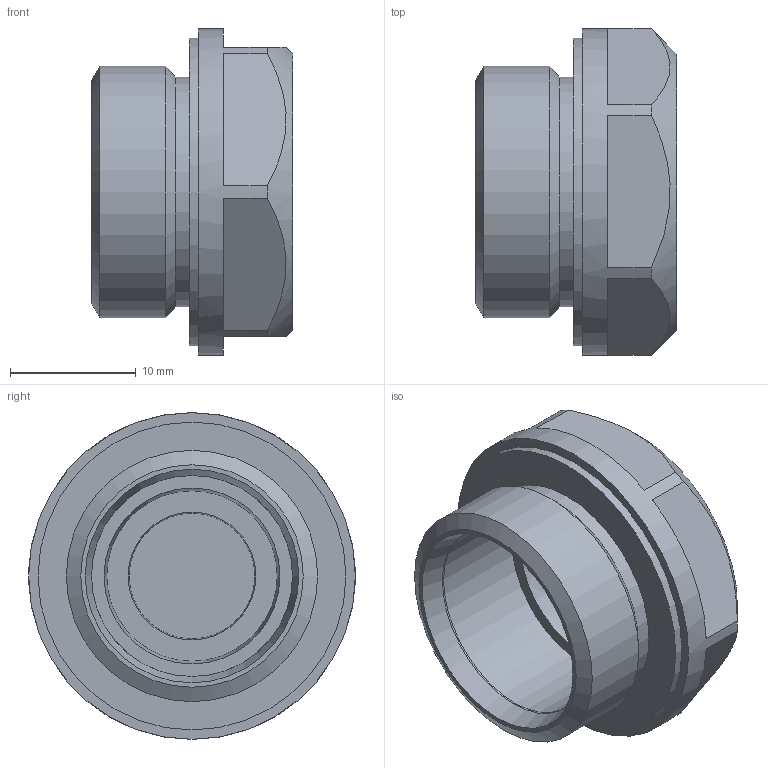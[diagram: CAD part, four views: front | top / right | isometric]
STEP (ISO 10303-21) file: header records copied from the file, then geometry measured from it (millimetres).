
FILE_DESCRIPTION( ( 'STEP AP203' ), '1' );
FILE_NAME( 'C:/Temp/Ganter_Step_05_03_2020/data/3_5/gn7404/gn7404_al/Two-way breathable membrane GN 7404-AL-M20x1,5-1,2.stp', '2020-03-12T13:44:03', ( 'License CC BY-ND 4.0' ), ( 'CADENAS' ), ' ', 'PARTsolutions', ' ' );
FILE_SCHEMA( ( 'CONFIG_CONTROL_DESIGN' ) );
Length unit declared in the file: millimetre
Products named in the file (1): _Two-way breathable membrane GN 7404-AL-M20x1,5-1,2
Bounding box: 16 x 26 x 26 mm (x, y, z)
Volume: 3395.6 mm3; surface area: 3365.6 mm2
Topology: 1 solids, 1 shells, 71 faces, 210 edges, 141 vertices
Faces by surface type: cylinder 33, plane 23, cone 9, torus 4, sphere 2
Full cylindrical faces by diameter (mm): 1.6 x13, 14 x1, 15.7 x1, 16 x1, 18.3 x1, 18.5 x1, 20 x1, 24.5 x1, 26 x1
Entity records: 2912 total; most frequent: CARTESIAN_POINT 1298, ORIENTED_EDGE 292, DIRECTION 278, EDGE_LOOP 146, EDGE_CURVE 146, AXIS2_PLACEMENT_3D 124, VERTEX_POINT 116, FACE_OUTER_BOUND 98
